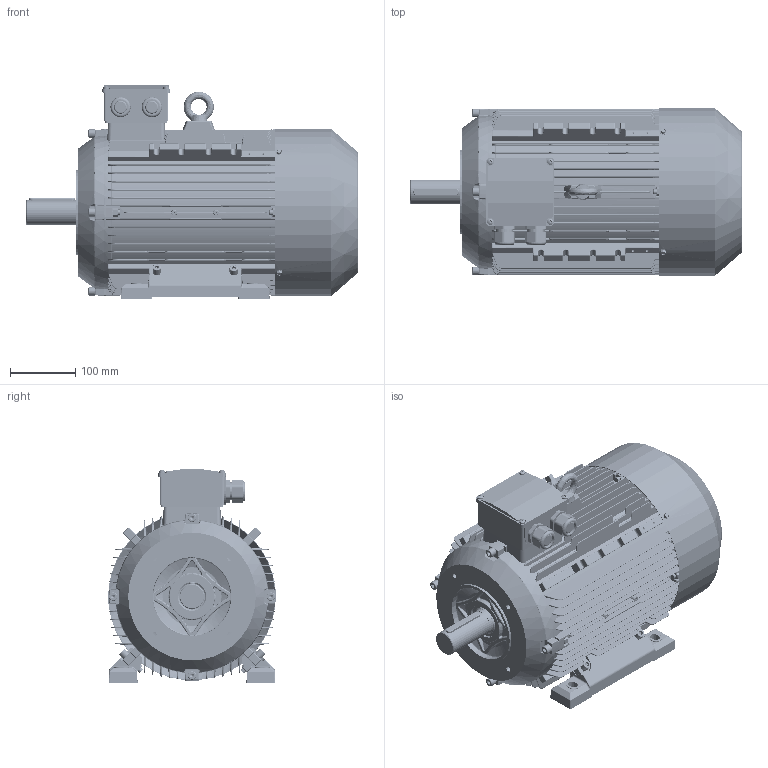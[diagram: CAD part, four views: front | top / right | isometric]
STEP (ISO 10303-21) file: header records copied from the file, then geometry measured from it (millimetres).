
FILE_DESCRIPTION (( 'STEP AP203' ), '1' );
FILE_NAME ('IE3 132M B34.STEP', '2018-07-17T07:05:26', ( 'admin' ), ( '' ), 'SwSTEP 2.0', 'SolidWorks 2014', '' );
FILE_SCHEMA (( 'CONFIG_CONTROL_DESIGN' ));
Length unit declared in the file: millimetre
Products named in the file (22): DMX-IE3 132 terimianl cover; DMX-IE3 132 B3 Shield ; hexagon socket head cap screws gb_GB_FASTENER_SCREWS_HSHCS M8X35-N; DMX-IE3 132 shaft cover; DMX-IE3 132shaft; cross recessed pan head screws gb_GB_CROSS_SCREWS_TYPE1 M5X12-12  H type-N; DMX-IE3 132 oil seal; deep groove ball bearings gb_Rolling bearings 6308 GB 276-94; DMX-IE3 Flange; plain parallel keys_GB_CONNECTING_PIECE_KEYS_CSK 10X70; DMX-IE3 132 feet ; IE3 132M B34; eyebolts gb_GB_FASTENER_SCREWS_FRS M10-N; DMX-IE3 132 feet2 ; spring lock washers--normal type gb_GB_FASTENER_WASHER_SW 8; DMX-IE3 132 fan; hexagon socket head cap screws gb_GB_FASTENER_SCREWS_HSHCS M8X40-N; DMX-IE3 132 fan cover; hexagon nuts grade c gb_GB_FASTENER_NUT_SNC1 M8-N; DMX-IE3 132 terminal base; DMX-IE3 132 casing ; hexagon flange head tapping screws gb_GB_SQUARE_AND_HEXAGON_TYPE137 ST4.8X9.5 C-N
Assembly tree (61 placements, depth 2):
  IE3 132M B34
    DMX-IE3 132 casing 
    DMX-IE3 132 B3 Shield 
    DMX-IE3 132shaft
    deep groove ball bearings gb_Rolling bearings 6308 GB 276-94  x2
    DMX-IE3 132 feet 
    DMX-IE3 132 feet2 
    DMX-IE3 132 fan
    DMX-IE3 132 fan cover
    DMX-IE3 132 terminal base
    DMX-IE3 132 terimianl cover
    DMX-IE3 132 shaft cover  x2
    DMX-IE3 132 oil seal
    plain parallel keys_GB_CONNECTING_PIECE_KEYS_CSK 10X70
    eyebolts gb_GB_FASTENER_SCREWS_FRS M10-N
    spring lock washers--normal type gb_GB_FASTENER_WASHER_SW 8  x12
    hexagon socket head cap screws gb_GB_FASTENER_SCREWS_HSHCS M8X40-N  x8
    hexagon nuts grade c gb_GB_FASTENER_NUT_SNC1 M8-N  x12
    hexagon flange head tapping screws gb_GB_SQUARE_AND_HEXAGON_TYPE137 ST4.8X9.5 C-N  x4
    hexagon socket head cap screws gb_GB_FASTENER_SCREWS_HSHCS M8X35-N  x4
    cross recessed pan head screws gb_GB_CROSS_SCREWS_TYPE1 M5X12-12  H type-N  x4
    DMX-IE3 Flange
Bounding box: 509.04 x 256.22 x 327 mm (x, y, z)
Volume: 4185518.2 mm3; surface area: 1909950.2 mm2
Topology: 62 solids, 64 shells, 8397 faces, 21696 edges, 13241 vertices
Faces by surface type: plane 2751, bspline 2377, cylinder 2279, cone 613, torus 289, sphere 88
Entity records: 333326 total; most frequent: CARTESIAN_POINT 166883, ORIENTED_EDGE 38326, DIRECTION 27903, EDGE_CURVE 19163, VERTEX_POINT 11758, AXIS2_PLACEMENT_3D 9965, EDGE_LOOP 8215, VECTOR 7973
